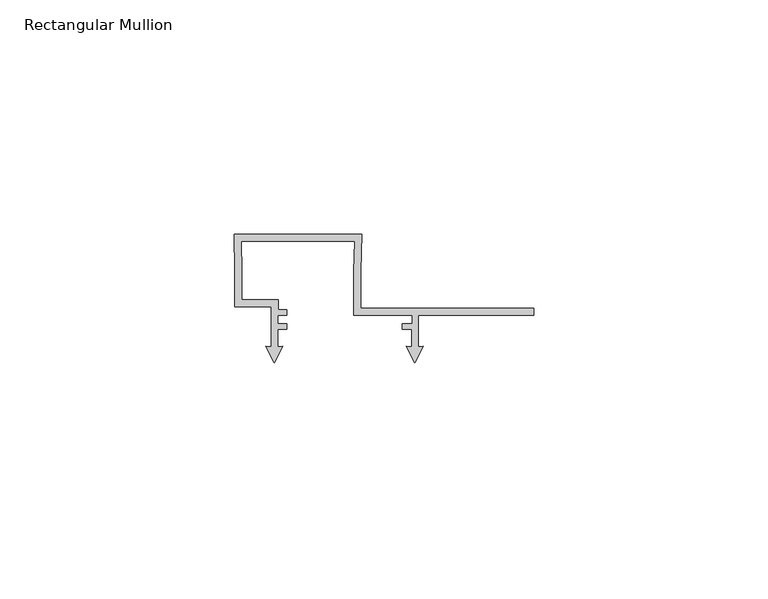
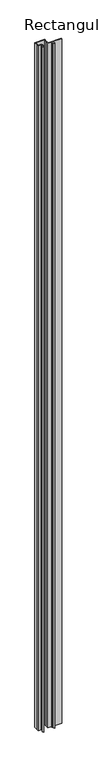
"""IFC4 building model written with IfcOpenShell, lengths in millimetres: member geometry, Rectangular Mullion : Renson_Linarte_LA-B16-01."""

from ifc_helpers import new_model, si_unit, frame, origin, place, context, project, spatial, polyline, outline, extrude, source, transform, mapped, element, save


def rectangular_mullion_72b57f38(model_context):
    return source(origin(), model_context, "Body", "SweptSolid", [
        extrude(outline(polyline([(0.0, 84.1000001), (27.279476, 84.1000001), (27.1352165, 76.1039069), (27.1353052, 68.2004291), (64.1, 68.2004291), (64.1, 66.7056679), (39.3351463, 66.7056679), (39.3351463, 60.0038207), (40.4508816, 60.1014348), (38.635145, 56.5378474), (36.8194083, 60.1014348), (37.9351461, 60.0038204), (37.9351461, 63.6999997), (35.942882, 63.6999997), (35.942882, 64.9008281), (38.0351451, 64.9008281), (38.0351451, 66.6999997), (25.6351455, 66.6999997), (25.6351455, 76.1117002), (25.7521689, 82.5999998), (1.5181226, 82.5999998), (1.6351135, 76.1153631), (1.6351472, 70.0997951), (9.4446143, 70.0997951), (9.4446143, 67.9015214), (11.3232242, 67.9015214), (11.3232242, 66.6999954), (9.344327, 66.6999954), (9.344327, 64.9004386), (11.3227094, 64.9004386), (11.3227094, 63.698351), (9.3351463, 63.698351), (9.3351463, 60.0038206), (10.4508827, 60.1014348), (8.6351462, 56.5378474), (6.8194096, 60.1014348), (7.9351461, 60.0038205), (7.9351461, 68.5995654), (0.1443272, 68.5995654), (0.1443272, 76.0977912), (0.0, 84.1000001)])), frame((0.0, 0.0, -2000.0), z_axis=(0.0, 0.0, 1.0), x_axis=(1.0, 0.0, 0.0)), (0.0, 0.0, 1.0), 2000.0),
    ])


if __name__ == "__main__":
    model = new_model("IFC4")
    model_context = context("Model", 3, world=origin())
    ifc_project = project(units=[si_unit("LENGTHUNIT", "METRE", prefix="MILLI")], contexts=[model_context])
    site = spatial("IfcSite", under=ifc_project)
    building = spatial("IfcBuilding", under=site)
    placement = place(None, origin())
    rectangular_mullion_shape = rectangular_mullion_72b57f38(model_context)
    element("IfcMember", 1, ObjectType="Rectangular Mullion : Renson_Linarte_LA-B16-01", at=placement, inside=building, context=model_context, shape_type="MappedRepresentation", body=[
        mapped(rectangular_mullion_shape, transform((0.0, 0.0, 0.0), x_axis=(1.0, 0.0, 0.0), y_axis=(0.0, 1.0, 0.0), z_axis=(0.0, 0.0, 1.0))),
    ])
    save(model, "model.ifc")
